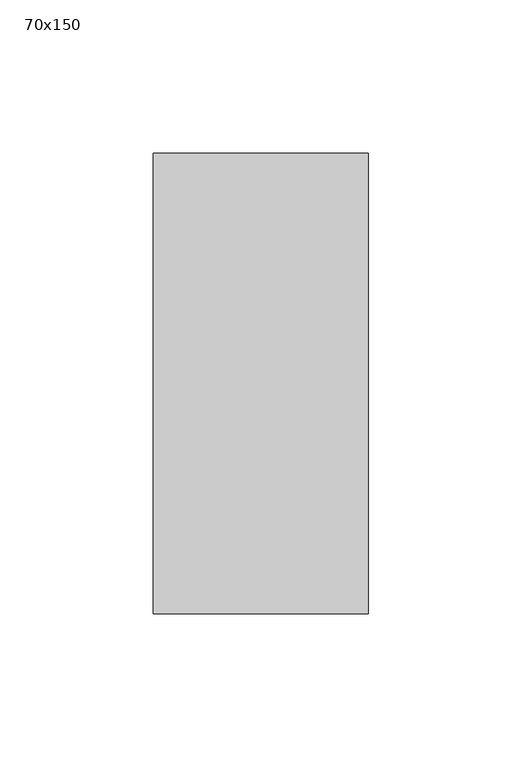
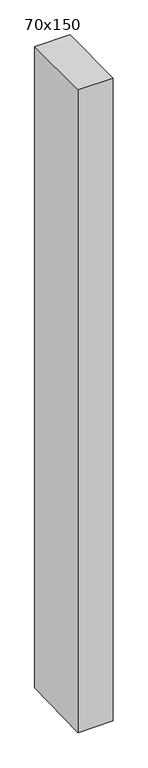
"""IFC4 building model written with IfcOpenShell, lengths in millimetres: member geometry, 長方形のマリオン : 70x150."""

from ifc_helpers import new_model, si_unit, frame, origin, place, context, project, spatial, polyline, outline, extrude, source, transform, mapped, element, save


def member_70x150_fe92fd29(model_context):
    return source(origin(), model_context, "Body", "SweptSolid", [
        extrude(outline(polyline([(-75.0, 0.0), (75.0, 0.0), (75.0, -1352.724988), (-75.0, -1356.0140574), (-75.0, 0.0)])), frame((-70.0, 0.0, 0.0), z_axis=(1.0, 0.0, 0.0), x_axis=(0.0, 1.0, 0.0)), (0.0, 0.0, 1.0), 70.0),
    ])


if __name__ == "__main__":
    model = new_model("IFC4")
    model_context = context("Model", 3, world=origin())
    ifc_project = project(units=[si_unit("LENGTHUNIT", "METRE", prefix="MILLI")], contexts=[model_context])
    site = spatial("IfcSite", under=ifc_project)
    building = spatial("IfcBuilding", under=site)
    placement = place(None, origin())
    member_70x150_shape = member_70x150_fe92fd29(model_context)
    element("IfcMember", 1, ObjectType="長方形のマリオン : 70x150", at=placement, inside=building, context=model_context, shape_type="MappedRepresentation", body=[
        mapped(member_70x150_shape, transform((0.0, 0.0, 0.0), x_axis=(1.0, 0.0, 0.0), y_axis=(0.0, 1.0, 0.0), z_axis=(0.0, 0.0, 1.0))),
    ])
    save(model, "model.ifc")
